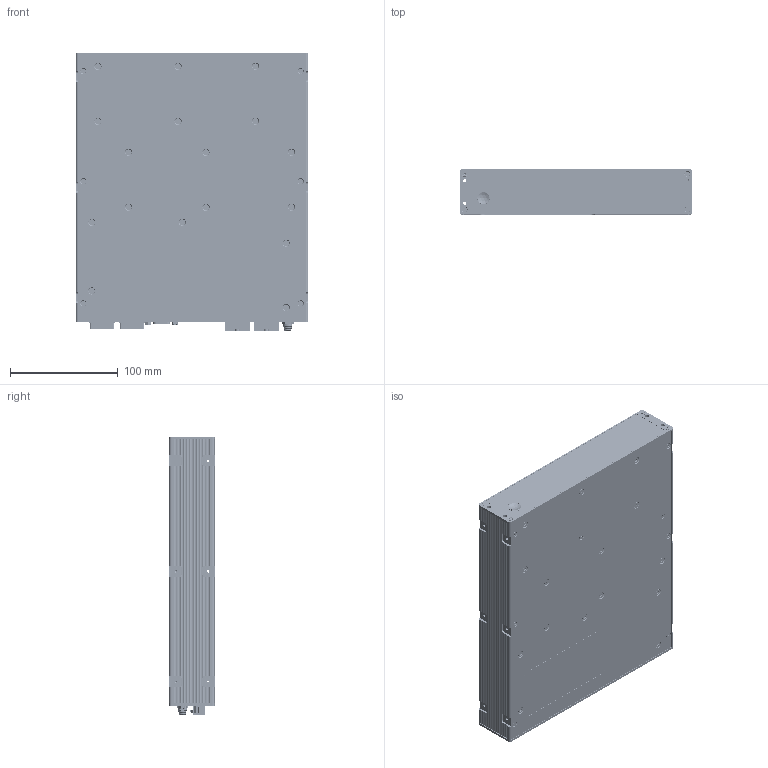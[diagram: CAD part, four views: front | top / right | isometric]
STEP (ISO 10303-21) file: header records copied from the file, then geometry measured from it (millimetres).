
FILE_DESCRIPTION(/* description */ (''),/* implementation_level */ '2;1');
FILE_NAME(/* name */ 'D:\Programm_Data\Autodesk\components\VP2110.stp',/* time_stamp */ '2024-04-17T16:16:50+02:00',/* author */ ('viskhp'),/* organization */ (''),/* preprocessor_version */ 'ST-DEVELOPER v18.1',/* originating_system */ 'Autodesk Inventor 2022',/* authorisation */ '');
FILE_SCHEMA (('AUTOMOTIVE_DESIGN { 1 0 10303 214 3 1 1 }'));
Products named in the file (1): VP2110
Bounding box: 216.15 x 42.15 x 259.04 mm (x, y, z)
Volume: 564682.8 mm3; surface area: 383901.9 mm2
Topology: 6 solids, 70 shells, 9027 faces, 25002 edges, 16332 vertices
Faces by surface type: plane 5478, cylinder 2574, bspline 410, cone 340, torus 161, sphere 64
Full cylindrical faces by diameter (mm): 0.38 x3, 0.7 x6, 0.8 x9, 0.85 x4, 1 x14, 1.2 x25, 1.35 x2, 1.4 x2, 1.6 x9, 1.62 x5, 1.8 x12, 1.85 x1, 1.9 x8, 2 x15, 2.013 x24, 2.156 x2, 2.459 x12, 2.5 x17, 2.54 x2, 2.85 x6, 2.9 x17, 3 x21, 3.05 x1, 3.2 x4, 3.242 x8, 3.35 x19, 3.5 x1, 3.55 x1, 3.7 x2, 3.9 x6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
Entity records: 345867 total; most frequent: CARTESIAN_POINT 105947, ORIENTED_EDGE 49793, DIRECTION 46812, EDGE_CURVE 24898, LINE 17122, VECTOR 17122, VERTEX_POINT 16308, AXIS2_PLACEMENT_3D 14845
